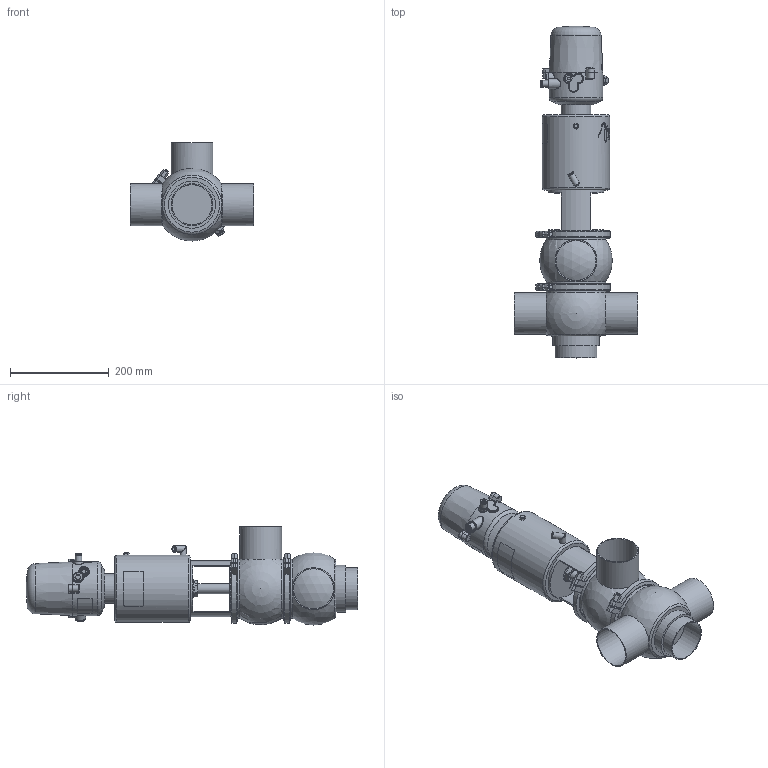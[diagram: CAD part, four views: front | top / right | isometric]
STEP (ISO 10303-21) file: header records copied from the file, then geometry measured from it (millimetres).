
FILE_DESCRIPTION (( 'STEP AP214' ), '1' );
FILE_NAME ('INNOVA K F W DIN 080 T3 AS NC & C-TOP S_10.240.16.0079.STEP', '2024-08-06T09:11:03', ( '' ), ( '' ), 'SwSTEP 2.0', 'SolidWorks 2023', '' );
FILE_SCHEMA (( 'AUTOMOTIVE_DESIGN' ));
Length unit declared in the file: millimetre
Products named in the file (8): 10.240.15.0014_T3 AS P0; 10.240.15.0017_Estàndard; INNOVA K F W DIN 080 T3 AS NC & C-TOP S_10.240.16.0079; 10.240.15.0010_DN 080; 10.240.15.0001_DN 080; 10.240.15.0006_DIN 080; 10.240.15.0003_DIN 080; 10.426.15.0001_C-TOP S - 1 EV
Assembly tree (8 placements, depth 2):
  INNOVA K F W DIN 080 T3 AS NC & C-TOP S_10.240.16.0079
    10.240.15.0006_DIN 080
    10.240.15.0003_DIN 080
    10.240.15.0010_DN 080
    10.240.15.0014_T3 AS P0
    10.240.15.0017_Estàndard
    10.426.15.0001_C-TOP S - 1 EV
    10.240.15.0001_DN 080  x2
Bounding box: 250 x 672 x 198.5 mm (x, y, z)
Volume: 7102760.8 mm3; surface area: 579481.7 mm2
Topology: 8 solids, 8 shells, 1177 faces, 2858 edges, 1903 vertices
Faces by surface type: plane 411, cylinder 358, cone 201, bspline 160, torus 37, sphere 10
Full cylindrical faces by diameter (mm): 0.371 x17, 0.512 x16, 0.658 x16, 0.795 x16, 0.94 x15, 1.098 x15, 1.241 x13, 1.382 x13, 1.523 x11, 1.669 x10, 2.201 x1, 4 x2, 5.5 x2, 6 x2, 6.15 x1, 8 x6, 8.5 x1, 10 x1, 10.5 x1, 11 x2, 12.5 x3, 13 x2, 13.5 x2, 16 x1, 17 x3, 20 x3, 20.5 x1, 22 x2, 31 x1, 34.5 x3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
Entity records: 58226 total; most frequent: CARTESIAN_POINT 27902, ORIENTED_EDGE 4538, DIRECTION 3675, EDGE_CURVE 2269, VERTEX_POINT 1614, EDGE_LOOP 1575, AXIS2_PLACEMENT_3D 1509, FACE_OUTER_BOUND 1336
